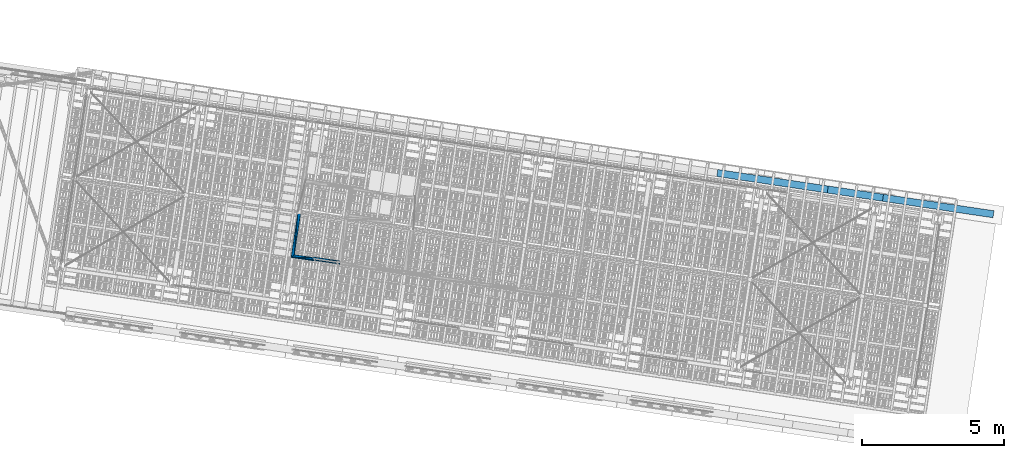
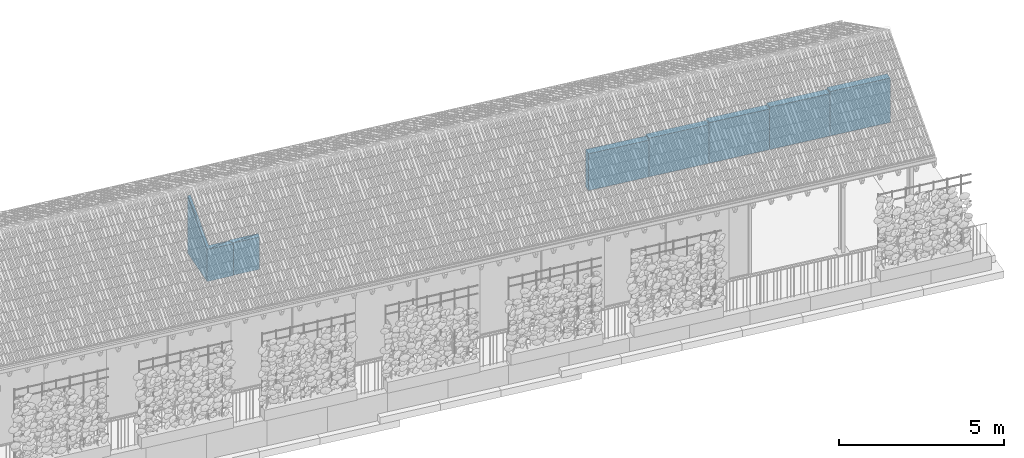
# One storey, part 119 of 128: 11 walls, 1 element without a shape of its own.
"""IFC4 building model written with IfcOpenShell, lengths in metres."""

from ifc_helpers import new_model, si_unit, direction, frame, origin_with_axes, place, context, subcontext, project, spatial, polyline, outline, extrude, polygons, material, element, aggregate, save


model = new_model("IFC4")

# Units and contexts
model_context = context("Model", 3, precision=1e-05, world=origin_with_axes(), true_north=direction((0.0, 1.0)))
body_context = subcontext(model_context, "Body", "Model", "MODEL_VIEW")
ifc_project = project(units=[si_unit("VOLUMEUNIT", "CUBIC_METRE"), si_unit("LENGTHUNIT", "METRE"), si_unit("AREAUNIT", "SQUARE_METRE")], contexts=[model_context])

# Site, building, storey
site_placement = place(None, origin_with_axes())
site = spatial("IfcSite", under=ifc_project, at=site_placement, Name="Lares · Rua das Mercês · artigo 4771")
building_placement = place(site_placement, frame((15.0, 9.7, 13.9), z_axis=(0.0, 0.0, 1.0), x_axis=(0.989015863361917, -0.147809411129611, 0.0)))
building = spatial("IfcBuilding", under=site, at=building_placement, Name="Casa Sobreposta")
storey_placement = place(building_placement, origin_with_axes())
storey = spatial("IfcBuildingStorey", under=building, at=storey_placement, Name="00 · Habitação e estacionamento", Elevation=13.9)

# Walls
ifc_material_1 = material(Name="OSB", Category="wood")
wall_1_placement = place(storey_placement, origin_with_axes())
element("IfcWall", 1, at=wall_1_placement, inside=storey, material=ifc_material_1, Name="Divisória · prolongamento até ao forro", context=body_context, shape_type="Tessellation", body=[
    polygons([(7.96000000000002, 3.2, 3.05), (7.96000000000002, 1.57999999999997, 3.05), (8.05999999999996, 1.68999999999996, 3.05), (7.96000000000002, 3.2, 5.1675208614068), (7.96000000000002, 1.57999999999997, 4.23221342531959), (8.05999999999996, 1.68999999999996, 4.29572195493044)], [[[3, 2, 1]], [[4, 5, 6]], [[1, 2, 5, 4]], [[2, 3, 6, 5]], [[3, 1, 4, 6]]]),
])
wall_2_placement = place(storey_placement, origin_with_axes())
element("IfcWall", 2, at=wall_2_placement, inside=storey, material=ifc_material_1, Name="Divisória · prolongamento até ao forro", context=body_context, shape_type="Tessellation", body=[
    polygons([(7.96000000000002, 3.2, 3.05), (8.05999999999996, 1.68999999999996, 3.05), (8.05999999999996, 3.2, 3.05), (7.96000000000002, 3.2, 5.1675208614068), (8.05999999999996, 1.68999999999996, 4.29572195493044), (8.05999999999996, 3.2, 5.1675208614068)], [[[3, 2, 1]], [[4, 5, 6]], [[1, 2, 5, 4]], [[2, 3, 6, 5]], [[3, 1, 4, 6]]]),
])
wall_3_placement = place(storey_placement, origin_with_axes())
element("IfcWall", 3, at=wall_3_placement, inside=storey, material=ifc_material_1, Name="Divisória · prolongamento até ao forro", context=body_context, shape_type="Tessellation", body=[
    polygons([(9.6746647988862, 1.70992519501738, 3.05), (8.70457262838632, 1.71008556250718, 3.05), (8.80999999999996, 1.60006813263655, 3.05), (9.6746647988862, 1.70992519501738, 4.30722577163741), (8.70457262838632, 1.71008556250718, 4.30731835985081), (8.80999999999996, 1.60006813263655, 4.24379976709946)], [[[3, 2, 1]], [[4, 5, 6]], [[1, 2, 5, 4]], [[2, 3, 6, 5]], [[3, 1, 4, 6]]]),
])
wall_4_placement = place(storey_placement, origin_with_axes())
element("IfcWall", 4, at=wall_4_placement, inside=storey, material=ifc_material_1, Name="Divisória · prolongamento até ao forro", context=body_context, shape_type="Tessellation", body=[
    polygons([(9.6746647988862, 1.70992519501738, 3.05), (8.80999999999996, 1.60006813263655, 3.05), (9.67464661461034, 1.59992519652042, 3.05), (9.6746647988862, 1.70992519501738, 4.30722577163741), (8.80999999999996, 1.60006813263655, 4.24379976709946), (9.67464661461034, 1.59992519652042, 4.24371724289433)], [[[3, 2, 1]], [[4, 5, 6]], [[1, 2, 5, 4]], [[2, 3, 6, 5]], [[3, 1, 4, 6]]]),
])
wall_5_placement = place(storey_placement, origin_with_axes())
element("IfcWall", 5, at=wall_5_placement, inside=storey, material=ifc_material_1, Name="Divisória · prolongamento até ao forro", context=body_context, shape_type="Tessellation", body=[
    polygons([(8.80999999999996, 1.57999999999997, 3.05), (8.70456930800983, 1.68999999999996, 3.05), (7.96000000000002, 1.57999999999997, 3.05), (8.80999999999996, 1.57999999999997, 4.23221342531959), (8.70456930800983, 1.68999999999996, 4.29572195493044), (7.96000000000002, 1.57999999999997, 4.23221342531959)], [[[3, 2, 1]], [[4, 5, 6]], [[1, 2, 5, 4]], [[2, 3, 6, 5]], [[3, 1, 4, 6]]]),
])
wall_6_placement = place(storey_placement, origin_with_axes())
element("IfcWall", 6, at=wall_6_placement, inside=storey, material=ifc_material_1, Name="Divisória · prolongamento até ao forro", context=body_context, shape_type="Tessellation", body=[
    polygons([(7.96000000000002, 1.57999999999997, 3.05), (8.70456930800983, 1.68999999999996, 3.05), (8.05999999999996, 1.68999999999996, 3.05), (7.96000000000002, 1.57999999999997, 4.23221342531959), (8.70456930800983, 1.68999999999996, 4.29572195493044), (8.05999999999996, 1.68999999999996, 4.29572195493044)], [[[3, 2, 1]], [[4, 5, 6]], [[1, 2, 5, 4]], [[2, 3, 6, 5]], [[3, 1, 4, 6]]]),
])

# Assembly, walls
assembly_placement = place(storey_placement, origin_with_axes())
assembly = element("IfcElementAssembly", 7, at=assembly_placement, inside=storey, Name="Pódio · terraço, casa térrea e cisterna", ObjectType="CISTERN_PODIUM", PredefinedType="USERDEFINED")
ifc_material_2 = material(Name="Betão armado / Stahlbeton", Category="concrete")
wall_7_placement = place(assembly_placement, frame((0.0, 0.0, -0.55), z_axis=(0.0, 0.0, 1.0), x_axis=(1.0, 0.0, 0.0)))
wall_7 = element("IfcWall", 8, at=wall_7_placement, material=ifc_material_2, Name="Pódio · contenção norte", ObjectType="Pódio · contenção norte", PredefinedType="USERDEFINED", context=body_context, shape_type="SweptSolid", body=[
    extrude(outline(polyline([(24.28125, 6.85), (24.28125, 6.6), (22.3203125, 6.6), (22.3203125, 6.85), (24.28125, 6.85)])), origin_with_axes(), (0.0, 0.0, 1.0), 1.3580134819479),
])
wall_8_placement = place(assembly_placement, frame((0.0, 0.0, -0.55), z_axis=(0.0, 0.0, 1.0), x_axis=(1.0, 0.0, 0.0)))
wall_8 = element("IfcWall", 9, at=wall_8_placement, material=ifc_material_2, Name="Pódio · contenção norte", ObjectType="Pódio · contenção norte", PredefinedType="USERDEFINED", context=body_context, shape_type="SweptSolid", body=[
    extrude(outline(polyline([(26.2421875, 6.85), (26.2421875, 6.6), (24.28125, 6.6), (24.28125, 6.85), (26.2421875, 6.85)])), origin_with_axes(), (0.0, 0.0, 1.0), 1.42857848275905),
])
wall_9_placement = place(assembly_placement, frame((0.0, 0.0, -0.55), z_axis=(0.0, 0.0, 1.0), x_axis=(1.0, 0.0, 0.0)))
wall_9 = element("IfcWall", 10, at=wall_9_placement, material=ifc_material_2, Name="Pódio · contenção norte", ObjectType="Pódio · contenção norte", PredefinedType="USERDEFINED", context=body_context, shape_type="SweptSolid", body=[
    extrude(outline(polyline([(28.203125, 6.85), (28.203125, 6.6), (26.2421875, 6.6), (26.2421875, 6.85), (28.203125, 6.85)])), origin_with_axes(), (0.0, 0.0, 1.0), 1.4991434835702),
])
wall_10_placement = place(assembly_placement, frame((0.0, 0.0, -0.55), z_axis=(0.0, 0.0, 1.0), x_axis=(1.0, 0.0, 0.0)))
wall_10 = element("IfcWall", 11, at=wall_10_placement, material=ifc_material_2, Name="Pódio · contenção norte", ObjectType="Pódio · contenção norte", PredefinedType="USERDEFINED", context=body_context, shape_type="SweptSolid", body=[
    extrude(outline(polyline([(30.1640625, 6.85), (30.1640625, 6.6), (28.203125, 6.6), (28.203125, 6.85), (30.1640625, 6.85)])), origin_with_axes(), (0.0, 0.0, 1.0), 1.56970848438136),
])
wall_11_placement = place(assembly_placement, frame((0.0, 0.0, -0.55), z_axis=(0.0, 0.0, 1.0), x_axis=(1.0, 0.0, 0.0)))
wall_11 = element("IfcWall", 12, at=wall_11_placement, material=ifc_material_2, Name="Pódio · contenção norte", ObjectType="Pódio · contenção norte", PredefinedType="USERDEFINED", context=body_context, shape_type="SweptSolid", body=[
    extrude(outline(polyline([(32.125, 6.85), (32.125, 6.6), (30.1640625, 6.6), (30.1640625, 6.85), (32.125, 6.85)])), origin_with_axes(), (0.0, 0.0, 1.0), 1.64027348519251),
])
aggregate(assembly, [wall_7, wall_8, wall_9, wall_10, wall_11])

save(model, "model.ifc")
